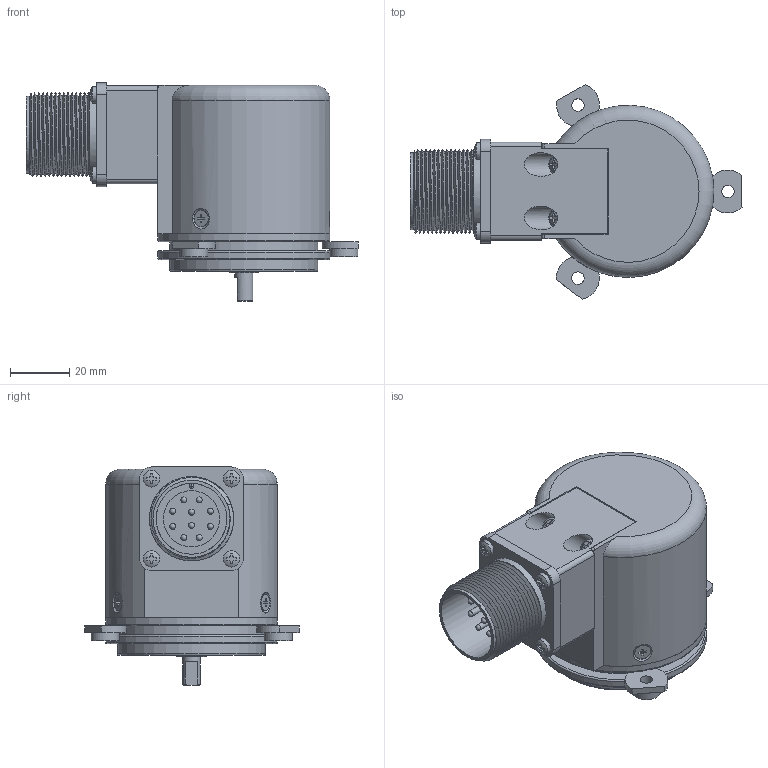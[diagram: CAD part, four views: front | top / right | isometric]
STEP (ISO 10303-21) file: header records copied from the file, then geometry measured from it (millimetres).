
FILE_DESCRIPTION(/* description */ ('Unknown'),/* implementation_level */ '2;1');
FILE_NAME(/* name */ 'EH_EL58B_BI2',/* time_stamp */ '2023-03-29T17:38:12+02:00',/* author */ ('Unknown'),/* organization */ ('Unknown'),/* preprocessor_version */ 'ST-DEVELOPER v16.7',/* originating_system */ 'DEX',/* authorisation */ $);
FILE_SCHEMA (('AUTOMOTIVE_DESIGN {1 0 10303 214 3 1 1}'));
Length unit declared in the file: millimetre
Products named in the file (1): EH_EL58B_BI2
Bounding box: 112 x 72.32 x 73.6 mm (x, y, z)
Volume: 104836.6 mm3; surface area: 67236.3 mm2
Topology: 18 solids, 18 shells, 711 faces, 1757 edges, 1129 vertices
Faces by surface type: plane 315, cylinder 255, torus 51, cone 46, bspline 30, sphere 14
Full cylindrical faces by diameter (mm): 2 x22, 2.05 x2, 2.2 x28, 2.459 x3, 2.5 x7, 2.6 x10, 3 x7, 3.242 x3, 3.5 x3, 4 x2, 4.2 x3, 4.5 x2, 5.6 x7, 6 x2, 7 x1, 8 x2, 9.5 x3, 10 x10, 10.5 x1, 11 x1, 12 x1, 13.8 x1, 19 x1, 20 x1, 22 x2, 23 x1, 23.9 x1, 25.2 x1, 26 x16, 26.1 x1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
Entity records: 32905 total; most frequent: CARTESIAN_POINT 18176, DIRECTION 2961, ORIENTED_EDGE 2654, EDGE_CURVE 1327, AXIS2_PLACEMENT_3D 1172, VERTEX_POINT 957, FACE_BOUND 948, EDGE_LOOP 936
